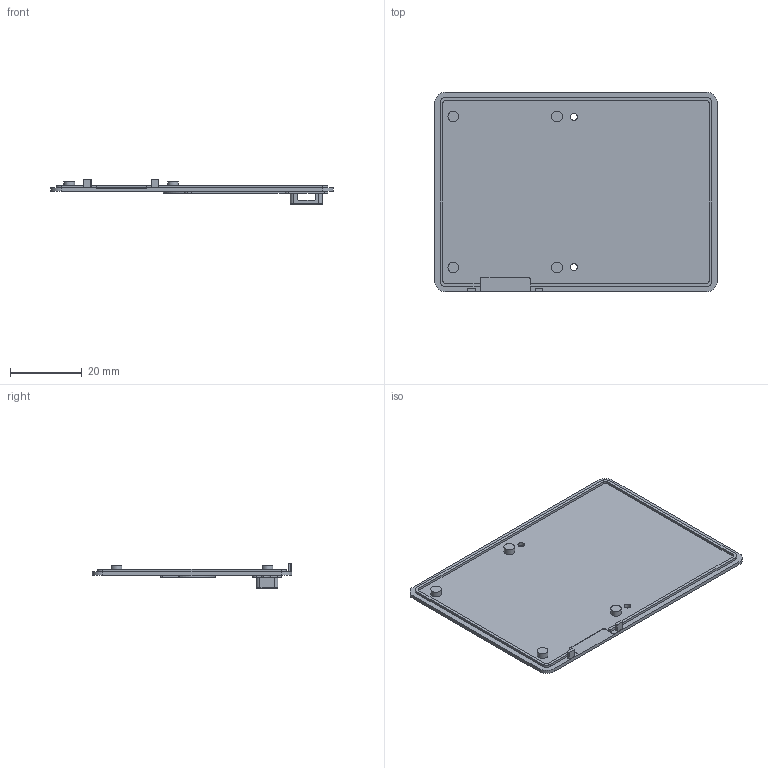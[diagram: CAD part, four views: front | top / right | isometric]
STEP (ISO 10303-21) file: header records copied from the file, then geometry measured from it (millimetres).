
FILE_DESCRIPTION(('Open CASCADE Model'),'2;1');
FILE_NAME('Open CASCADE Shape Model','2026-11-21T21:44:32',('Author'),( 'Open CASCADE'),'Open CASCADE STEP processor 7.9','Open CASCADE 7.9' ,'Unknown');
FILE_SCHEMA(('AUTOMOTIVE_DESIGN { 1 0 10303 214 1 1 1 1 }'));
Length unit declared in the file: millimetre
Products named in the file (1): Open CASCADE STEP translator 7.9 2
Bounding box: 79 x 55.8 x 7.15 mm (x, y, z)
Volume: 4842.5 mm3; surface area: 9786.3 mm2
Topology: 1 solids, 1 shells, 146 faces, 368 edges, 243 vertices
Faces by surface type: plane 76, cylinder 60, extrusion 5, torus 4, cone 1
Full cylindrical faces by diameter (mm): 1.1 x2, 1.4 x2, 1.9 x2, 3 x5
Entity records: 9490 total; most frequent: CARTESIAN_POINT 1998, DIRECTION 1452, VECTOR 836, LINE 831, ORIENTED_EDGE 736, PCURVE 736, DEFINITIONAL_REPRESENTATION 736, EDGE_CURVE 368
